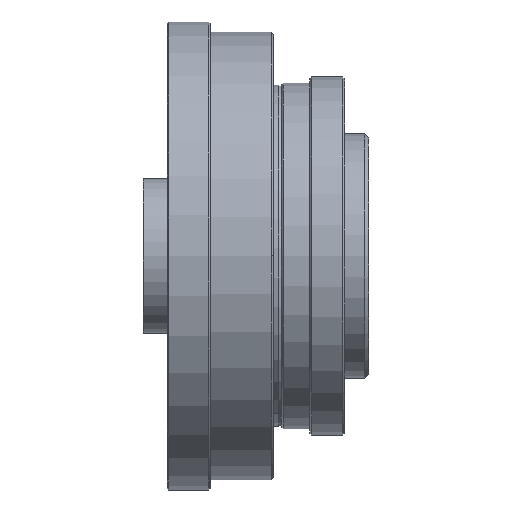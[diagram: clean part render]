
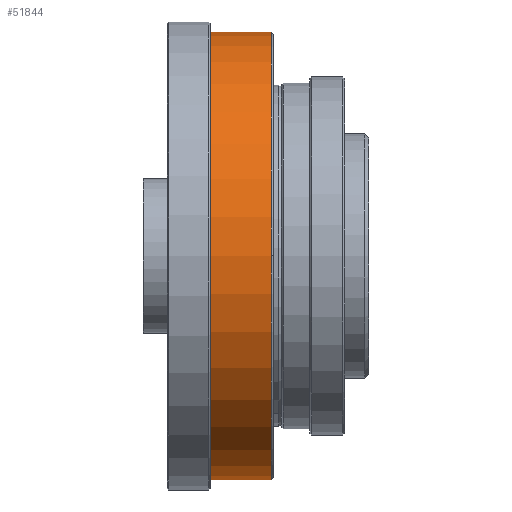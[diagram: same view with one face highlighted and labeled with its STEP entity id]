
A CAD part, top view. The second image highlights one B-rep face of the part: STEP entity #51844.
In plain terms, the highlighted cylindrical face has radius 55 mm (diameter 110 mm), a partial arc.
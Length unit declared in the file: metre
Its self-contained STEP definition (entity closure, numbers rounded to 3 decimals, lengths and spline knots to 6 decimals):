
#170 = ORIENTED_EDGE ( 'NONE', *, *, #26198, .T. ) ;
#2402 = CARTESIAN_POINT ( 'NONE',  ( 0.0315, 0.055, 0. ) ) ;
#2613 = DIRECTION ( 'NONE',  ( 0., -1., 0. ) ) ;
#4521 = CARTESIAN_POINT ( 'NONE',  ( 0.008033, 0.055, 0. ) ) ;
#6247 = EDGE_CURVE ( 'NONE', #48809, #80120, #11987, .T. ) ;
#7311 = CIRCLE ( 'NONE', #36045, 0.055 ) ;
#7593 = LINE ( 'NONE', #19849, #44211 ) ;
#9071 = CARTESIAN_POINT ( 'NONE',  ( 0.0315, -0.055, 0. ) ) ;
#10244 = EDGE_CURVE ( 'NONE', #14154, #80120, #7593, .T. ) ;
#10743 = CYLINDRICAL_SURFACE ( 'NONE', #17661, 0.055 ) ;
#11533 = DIRECTION ( 'NONE',  ( -1., 0., 0. ) ) ;
#11987 = CIRCLE ( 'NONE', #22474, 0.055 ) ;
#13080 = DIRECTION ( 'NONE',  ( 1., 0., 0. ) ) ;
#13322 = CARTESIAN_POINT ( 'NONE',  ( 0.0138, 0.055, 0. ) ) ;
#13573 = VERTEX_POINT ( 'NONE', #31700 ) ;
#14154 = VERTEX_POINT ( 'NONE', #9071 ) ;
#16978 = CARTESIAN_POINT ( 'NONE',  ( 0.0138, 0., 0.055 ) ) ;
#17661 = AXIS2_PLACEMENT_3D ( 'NONE', #30372, #11533, #36484 ) ;
#18472 = ORIENTED_EDGE ( 'NONE', *, *, #6247, .T. ) ;
#19849 = CARTESIAN_POINT ( 'NONE',  ( 0.008033, -0.055, 0. ) ) ;
#20251 = DIRECTION ( 'NONE',  ( -1., 0., 0. ) ) ;
#21042 = ORIENTED_EDGE ( 'NONE', *, *, #10244, .F. ) ;
#22474 = AXIS2_PLACEMENT_3D ( 'NONE', #77056, #63960, #2613 ) ;
#24104 = DIRECTION ( 'NONE',  ( -1., 0., 0. ) ) ;
#25711 = DIRECTION ( 'NONE',  ( 0., -1., 0. ) ) ;
#26198 = EDGE_CURVE ( 'NONE', #70505, #48809, #26608, .T. ) ;
#26608 = CIRCLE ( 'NONE', #63164, 0.055 ) ;
#27178 = ORIENTED_EDGE ( 'NONE', *, *, #51174, .T. ) ;
#27812 = EDGE_CURVE ( 'NONE', #51286, #70505, #54423, .T. ) ;
#30372 = CARTESIAN_POINT ( 'NONE',  ( 0.008033, 0., 0. ) ) ;
#31700 = CARTESIAN_POINT ( 'NONE',  ( 0.0315, 0., 0.055 ) ) ;
#36045 = AXIS2_PLACEMENT_3D ( 'NONE', #80332, #74570, #62308 ) ;
#36484 = DIRECTION ( 'NONE',  ( 0., -1., 0. ) ) ;
#39368 = EDGE_LOOP ( 'NONE', ( #57398, #65973, #170, #18472, #21042, #27178 ) ) ;
#44211 = VECTOR ( 'NONE', #20251, 1. ) ;
#48809 = VERTEX_POINT ( 'NONE', #16978 ) ;
#51174 = EDGE_CURVE ( 'NONE', #14154, #13573, #71166, .T. ) ;
#51286 = VERTEX_POINT ( 'NONE', #2402 ) ;
#51844 = ADVANCED_FACE ( 'NONE', ( #54136 ), #10743, .T. ) ;
#54136 = FACE_OUTER_BOUND ( 'NONE', #39368, .T. ) ;
#54423 = LINE ( 'NONE', #4521, #77730 ) ;
#54819 = DIRECTION ( 'NONE',  ( -1., 0., 0. ) ) ;
#55874 = CARTESIAN_POINT ( 'NONE',  ( 0.0138, -0.055, 0. ) ) ;
#56415 = CARTESIAN_POINT ( 'NONE',  ( 0.0315, 0., 0. ) ) ;
#57398 = ORIENTED_EDGE ( 'NONE', *, *, #75309, .T. ) ;
#59459 = AXIS2_PLACEMENT_3D ( 'NONE', #56415, #24104, #25711 ) ;
#62308 = DIRECTION ( 'NONE',  ( 0., -1., 0. ) ) ;
#63164 = AXIS2_PLACEMENT_3D ( 'NONE', #76477, #13080, #76071 ) ;
#63960 = DIRECTION ( 'NONE',  ( 1., 0., 0. ) ) ;
#65973 = ORIENTED_EDGE ( 'NONE', *, *, #27812, .T. ) ;
#70505 = VERTEX_POINT ( 'NONE', #13322 ) ;
#71166 = CIRCLE ( 'NONE', #59459, 0.055 ) ;
#74570 = DIRECTION ( 'NONE',  ( -1., 0., 0. ) ) ;
#75309 = EDGE_CURVE ( 'NONE', #13573, #51286, #7311, .T. ) ;
#76071 = DIRECTION ( 'NONE',  ( 0., -1., 0. ) ) ;
#76477 = CARTESIAN_POINT ( 'NONE',  ( 0.0138, 0., 0. ) ) ;
#77056 = CARTESIAN_POINT ( 'NONE',  ( 0.0138, 0., 0. ) ) ;
#77730 = VECTOR ( 'NONE', #54819, 1. ) ;
#80120 = VERTEX_POINT ( 'NONE', #55874 ) ;
#80332 = CARTESIAN_POINT ( 'NONE',  ( 0.0315, 0., 0. ) ) ;
